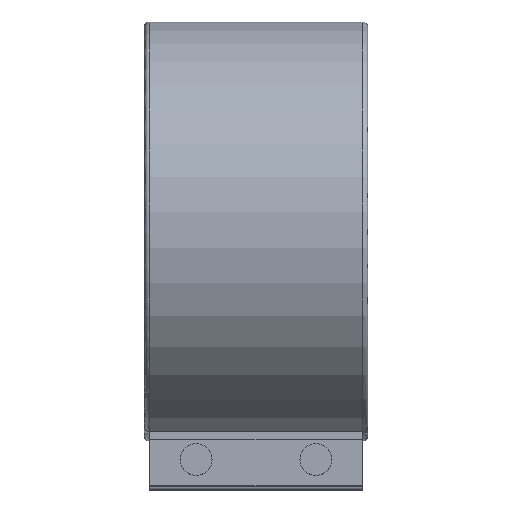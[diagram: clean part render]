
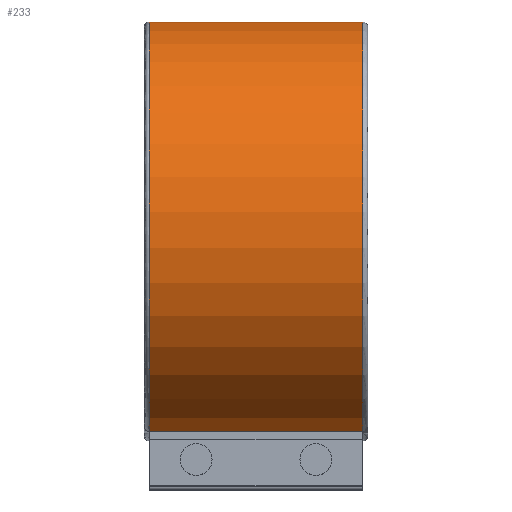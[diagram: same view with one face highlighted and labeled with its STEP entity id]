
A CAD part, top view. The second image highlights one B-rep face of the part: STEP entity #233.
In plain terms, the highlighted cylindrical face has radius 52.5 mm (diameter 105 mm), a partial arc.
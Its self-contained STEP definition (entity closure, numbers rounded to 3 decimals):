
#233 = ADVANCED_FACE( '', ( #544 ), #545, .T. );
#544 = FACE_OUTER_BOUND( '', #957, .T. );
#545 = CYLINDRICAL_SURFACE( '', #958, 52.5 );
#957 = EDGE_LOOP( '', ( #1598, #1599, #1600, #1601 ) );
#958 = AXIS2_PLACEMENT_3D( '', #1602, #1603, #1604 );
#1598 = ORIENTED_EDGE( '', *, *, #2434, .T. );
#1599 = ORIENTED_EDGE( '', *, *, #2319, .T. );
#1600 = ORIENTED_EDGE( '', *, *, #2435, .F. );
#1601 = ORIENTED_EDGE( '', *, *, #2436, .T. );
#1602 = CARTESIAN_POINT( '', ( 28., 0., 0. ) );
#1603 = DIRECTION( '', ( -1., 0., 0. ) );
#1604 = DIRECTION( '', ( 0., 0., -1. ) );
#2319 = EDGE_CURVE( '', #2771, #2772, #2773, .T. );
#2434 = EDGE_CURVE( '', #2948, #2771, #2949, .T. );
#2435 = EDGE_CURVE( '', #2950, #2772, #2951, .T. );
#2436 = EDGE_CURVE( '', #2950, #2948, #2952, .F. );
#2771 = VERTEX_POINT( '', #3411 );
#2772 = VERTEX_POINT( '', #3412 );
#2773 = LINE( '', #3413, #3414 );
#2948 = VERTEX_POINT( '', #3682 );
#2949 = CIRCLE( '', #3683, 52.5 );
#2950 = VERTEX_POINT( '', #3684 );
#2951 = CIRCLE( '', #3685, 52.5 );
#2952 = LINE( '', #3686, #3687 );
#3411 = CARTESIAN_POINT( '', ( -26.74, -50.082, 15.75 ) );
#3412 = CARTESIAN_POINT( '', ( 26.74, -50.082, 15.75 ) );
#3413 = CARTESIAN_POINT( '', ( 28., -50.082, 15.75 ) );
#3414 = VECTOR( '', #4122, 1000. );
#3682 = CARTESIAN_POINT( '', ( -26.74, -50.082, -15.75 ) );
#3683 = AXIS2_PLACEMENT_3D( '', #4231, #4232, #4233 );
#3684 = CARTESIAN_POINT( '', ( 26.74, -50.082, -15.75 ) );
#3685 = AXIS2_PLACEMENT_3D( '', #4234, #4235, #4236 );
#3686 = CARTESIAN_POINT( '', ( 28., -50.082, -15.75 ) );
#3687 = VECTOR( '', #4237, 1000. );
#4122 = DIRECTION( '', ( 1., 0., 0. ) );
#4231 = CARTESIAN_POINT( '', ( -26.74, 0., 0. ) );
#4232 = DIRECTION( '', ( 1., 0., 0. ) );
#4233 = DIRECTION( '', ( 0., 0., -1. ) );
#4234 = CARTESIAN_POINT( '', ( 26.74, 0., 0. ) );
#4235 = DIRECTION( '', ( 1., 0., 0. ) );
#4236 = DIRECTION( '', ( 0., 0., -1. ) );
#4237 = DIRECTION( '', ( 1., 0., 0. ) );
